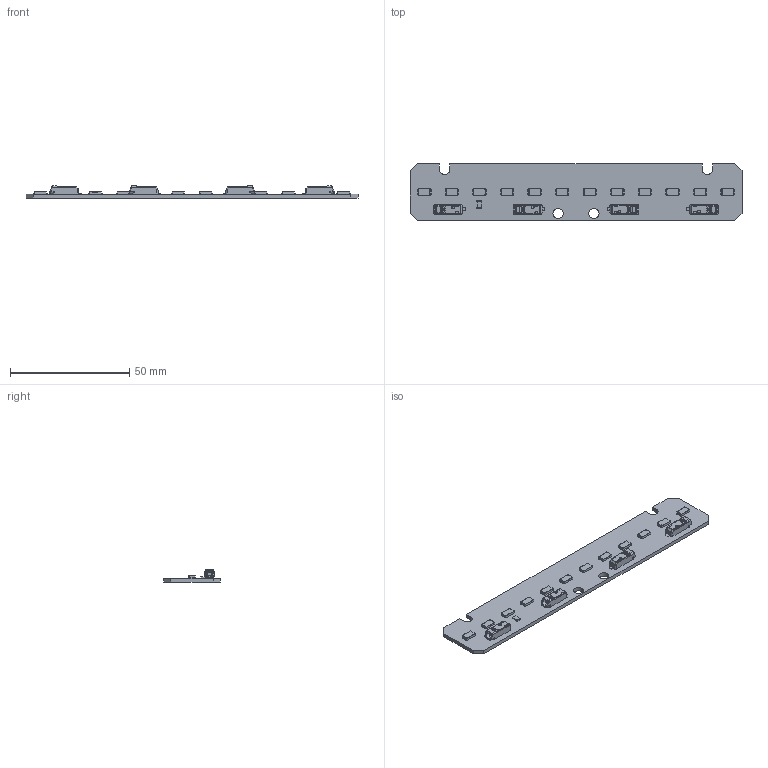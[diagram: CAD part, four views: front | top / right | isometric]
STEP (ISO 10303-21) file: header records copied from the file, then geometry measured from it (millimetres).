
FILE_DESCRIPTION((''),'2;1');
FILE_NAME('16206869_LLE-G4_24X140_650LM','2016-02-19T',('bernhard.fink'),(''),'PRO/ENGINEER BY PARAMETRIC TECHNOLOGY CORPORATION, 2015200','PRO/ENGINEER BY PARAMETRIC TECHNOLOGY CORPORATION, 2015200','');
FILE_SCHEMA(('AUTOMOTIVE_DESIGN { 1 0 10303 214 1 1 1 1 }'));
Products named in the file (1): 16206869_LLE-G4_24X140_650LM
Bounding box: 139 x 23.6 x 5.1 mm (x, y, z)
Volume: 5928.3 mm3; surface area: 7983.7 mm2
Topology: 1 solids, 1 shells, 1470 faces, 3904 edges, 2436 vertices
Faces by surface type: plane 680, cylinder 418, bspline 232, cone 68, revolution 24, torus 24, sphere 24
Entity records: 74828 total; most frequent: CARTESIAN_POINT 19134, ORIENTED_EDGE 7712, DIRECTION 6104, PRESENTATION_STYLE_ASSIGNMENT 5255, STYLED_ITEM 3881, CURVE_STYLE 3880, EDGE_CURVE 3856, VERTEX_POINT 2436
